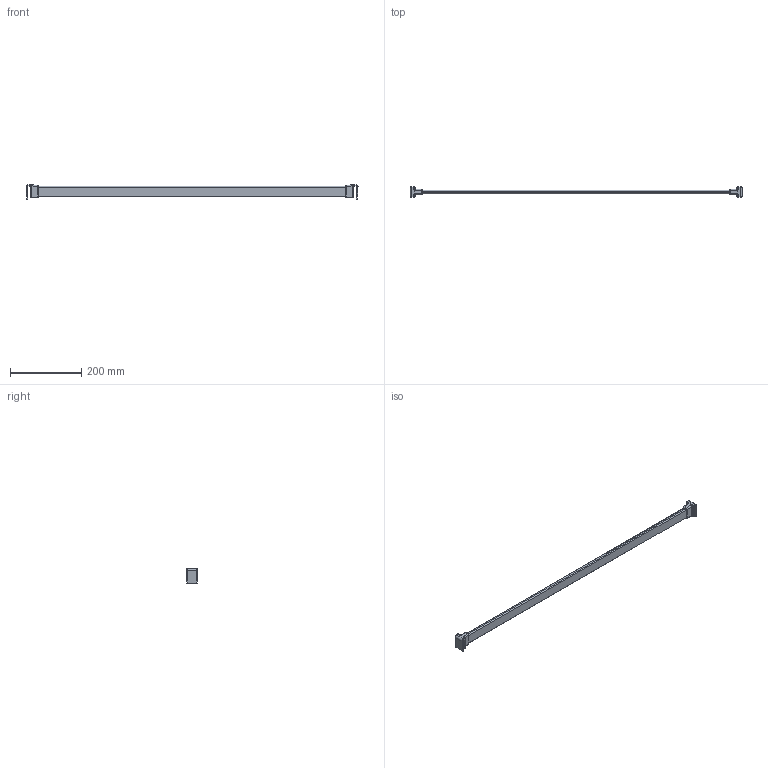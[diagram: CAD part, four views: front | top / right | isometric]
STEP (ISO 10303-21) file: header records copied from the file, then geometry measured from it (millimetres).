
FILE_DESCRIPTION (( 'STEP AP214' ), '1' );
FILE_NAME ('_Querreling_KAB-1000_KS-19_P602_Glashalter.step', '2010-08-26T14:58:55', ( 'grass' ), ( '' ), 'SwSTEP 2.0', 'SolidWorks 2009', '' );
FILE_SCHEMA (( 'AUTOMOTIVE_DESIGN' ));
Length unit declared in the file: millimetre
Products named in the file (1): _Querreling_KAB-1000_KS-19_P602_Glashalter
Bounding box: 934.78 x 30 x 41.5 mm (x, y, z)
Volume: 303514.5 mm3; surface area: 81040.4 mm2
Topology: 1 solids, 1 shells, 124 faces, 300 edges, 176 vertices
Faces by surface type: cylinder 58, plane 34, torus 16, bspline 12, sphere 4
Entity records: 5090 total; most frequent: CARTESIAN_POINT 2269, ORIENTED_EDGE 592, DIRECTION 590, EDGE_CURVE 296, AXIS2_PLACEMENT_3D 225, VERTEX_POINT 176, LINE 140, VECTOR 140
